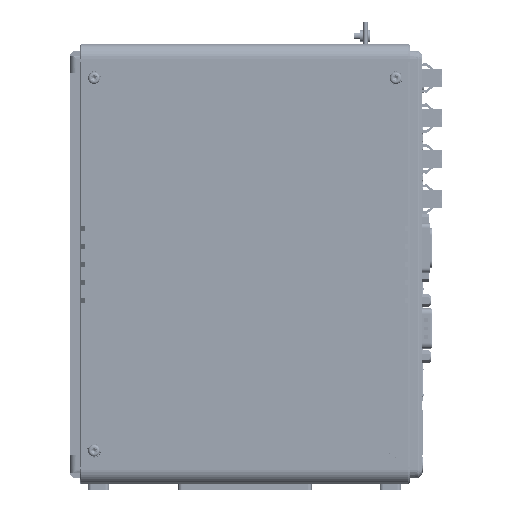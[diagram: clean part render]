
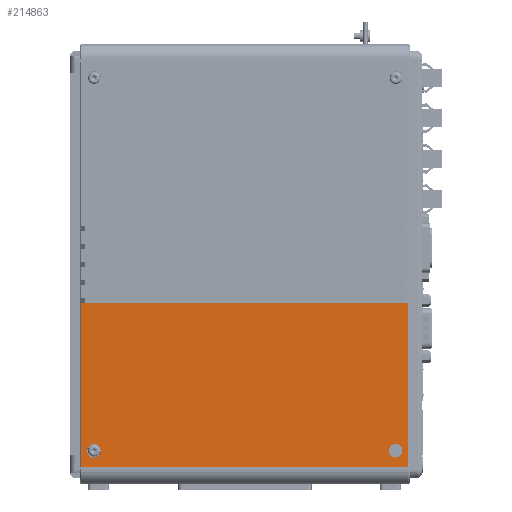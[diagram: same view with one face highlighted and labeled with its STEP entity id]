
A CAD part, front view. The second image highlights one B-rep face of the part: STEP entity #214863.
In plain terms, the highlighted planar face has unit normal (0, -1, 0).
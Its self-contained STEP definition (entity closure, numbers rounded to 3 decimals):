
#42305=CARTESIAN_POINT('',(140.7,-6.5,15.));
#42306=DIRECTION('',(0.,1.,0.));
#42307=DIRECTION('',(0.,0.,1.));
#42308=AXIS2_PLACEMENT_3D('',#42305,#42306,#42307);
#42310=CARTESIAN_POINT('',(140.7,-6.5,15.));
#42311=DIRECTION('',(0.,1.,0.));
#42312=DIRECTION('',(0.,0.,-1.));
#42313=AXIS2_PLACEMENT_3D('',#42310,#42311,#42312);
#42315=CARTESIAN_POINT('',(6.3,-6.5,15.));
#42316=DIRECTION('',(0.,1.,0.));
#42317=DIRECTION('',(0.,0.,1.));
#42318=AXIS2_PLACEMENT_3D('',#42315,#42316,#42317);
#42320=CARTESIAN_POINT('',(6.3,-6.5,15.));
#42321=DIRECTION('',(0.,1.,0.));
#42322=DIRECTION('',(0.,0.,-1.));
#42323=AXIS2_PLACEMENT_3D('',#42320,#42321,#42322);
#42325=DIRECTION('',(-1.,0.,0.));
#42326=VECTOR('',#42325,145.6);
#42327=CARTESIAN_POINT('',(146.3,-6.5,81.));
#42328=LINE('',#42327,#42326);
#42329=DIRECTION('',(0.,0.,1.));
#42330=VECTOR('',#42329,73.3);
#42331=CARTESIAN_POINT('',(146.3,-6.5,7.7));
#42332=LINE('',#42331,#42330);
#42333=DIRECTION('',(0.,0.,-1.));
#42334=VECTOR('',#42333,73.3);
#42335=CARTESIAN_POINT('',(0.7,-6.5,81.));
#42336=LINE('',#42335,#42334);
#42449=DIRECTION('',(-1.,0.,0.));
#42450=VECTOR('',#42449,145.6);
#42451=CARTESIAN_POINT('',(146.3,-6.5,7.7));
#42452=LINE('',#42451,#42450);
#122794=CARTESIAN_POINT('',(146.3,-6.5,7.7));
#122795=VERTEX_POINT('',#122794);
#122796=CARTESIAN_POINT('',(146.3,-6.5,81.));
#122797=VERTEX_POINT('',#122796);
#122837=CARTESIAN_POINT('',(0.7,-6.5,81.));
#122839=VERTEX_POINT('',#122837);
#122840=CARTESIAN_POINT('',(0.7,-6.5,7.7));
#122841=VERTEX_POINT('',#122840);
#122876=CARTESIAN_POINT('',(6.3,-6.5,11.956));
#122877=CARTESIAN_POINT('',(6.3,-6.5,18.044));
#122878=VERTEX_POINT('',#122876);
#122879=VERTEX_POINT('',#122877);
#122880=CARTESIAN_POINT('',(140.7,-6.5,11.956));
#122881=CARTESIAN_POINT('',(140.7,-6.5,18.044));
#122882=VERTEX_POINT('',#122880);
#122883=VERTEX_POINT('',#122881);
#214838=CARTESIAN_POINT('',(0.,-6.5,196.));
#214839=DIRECTION('',(0.,-1.,0.));
#214840=DIRECTION('',(0.,0.,-1.));
#214841=AXIS2_PLACEMENT_3D('',#214838,#214839,#214840);
#214842=PLANE('',#214841);
#214843=ORIENTED_EDGE('',*,*,#214822,.F.);
#214844=ORIENTED_EDGE('',*,*,#214413,.F.);
#214846=ORIENTED_EDGE('',*,*,#214845,.T.);
#214848=ORIENTED_EDGE('',*,*,#214847,.F.);
#214849=EDGE_LOOP('',(#214843,#214844,#214846,#214848));
#214850=FACE_OUTER_BOUND('',#214849,.F.);
#214852=ORIENTED_EDGE('',*,*,#214851,.F.);
#214854=ORIENTED_EDGE('',*,*,#214853,.F.);
#214855=EDGE_LOOP('',(#214852,#214854));
#214856=FACE_BOUND('',#214855,.F.);
#214858=ORIENTED_EDGE('',*,*,#214857,.F.);
#214860=ORIENTED_EDGE('',*,*,#214859,.F.);
#214861=EDGE_LOOP('',(#214858,#214860));
#214862=FACE_BOUND('',#214861,.F.);
#214863=ADVANCED_FACE('',(#214850,#214856,#214862),#214842,.T.);
#42309=CIRCLE('',#42308,3.044);
#42314=CIRCLE('',#42313,3.044);
#42319=CIRCLE('',#42318,3.044);
#42324=CIRCLE('',#42323,3.044);
#214413=EDGE_CURVE('',#122795,#122797,#42332,.T.);
#214822=EDGE_CURVE('',#122797,#122839,#42328,.T.);
#214845=EDGE_CURVE('',#122795,#122841,#42452,.T.);
#214847=EDGE_CURVE('',#122839,#122841,#42336,.T.);
#214851=EDGE_CURVE('',#122879,#122878,#42319,.T.);
#214853=EDGE_CURVE('',#122878,#122879,#42324,.T.);
#214857=EDGE_CURVE('',#122883,#122882,#42309,.T.);
#214859=EDGE_CURVE('',#122882,#122883,#42314,.T.);
